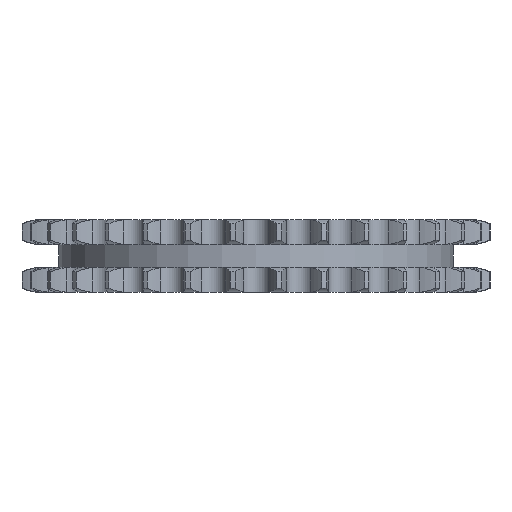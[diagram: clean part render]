
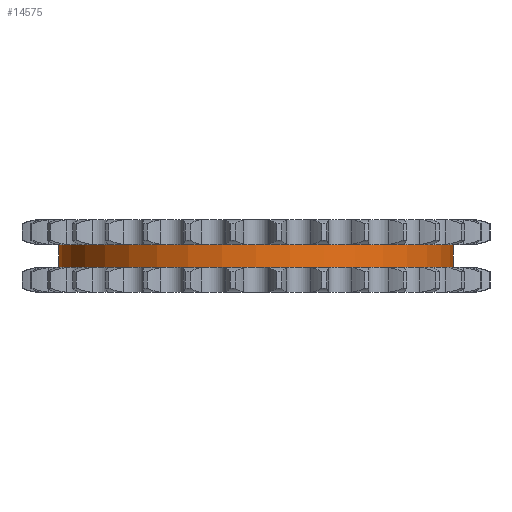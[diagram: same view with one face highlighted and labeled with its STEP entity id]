
A CAD part, left-side view. The second image highlights one B-rep face of the part: STEP entity #14575.
In plain terms, the highlighted cylindrical face has radius 56.785 mm (diameter 113.569 mm), a partial arc.
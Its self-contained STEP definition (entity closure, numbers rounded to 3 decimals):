
#3092=DIRECTION('',(0.,0.,-1.));
#3093=VECTOR('',#3092,6.6);
#3094=CARTESIAN_POINT('',(0.,56.785,3.3));
#3095=LINE('',#3094,#3093);
#3099=CARTESIAN_POINT('',(0.,0.,3.3));
#3100=DIRECTION('',(0.,0.,1.));
#3101=DIRECTION('',(0.,1.,0.));
#3102=AXIS2_PLACEMENT_3D('',#3099,#3100,#3101);
#3107=DIRECTION('',(0.,0.,-1.));
#3108=VECTOR('',#3107,6.6);
#3109=CARTESIAN_POINT('',(0.,-56.785,3.3));
#3110=LINE('',#3109,#3108);
#3114=CARTESIAN_POINT('',(0.,0.,-3.3));
#3115=DIRECTION('',(0.,0.,1.));
#3116=DIRECTION('',(0.,1.,0.));
#3117=AXIS2_PLACEMENT_3D('',#3114,#3115,#3116);
#11574=CARTESIAN_POINT('',(0.,56.785,3.3));
#11575=CARTESIAN_POINT('',(0.,56.785,-3.3));
#11576=VERTEX_POINT('',#11574);
#11577=VERTEX_POINT('',#11575);
#11578=CARTESIAN_POINT('',(0.,-56.785,3.3));
#11579=CARTESIAN_POINT('',(0.,-56.785,-3.3));
#11580=VERTEX_POINT('',#11578);
#11581=VERTEX_POINT('',#11579);
#14563=CARTESIAN_POINT('',(0.,0.,3.63));
#14564=DIRECTION('',(0.,0.,-1.));
#14565=DIRECTION('',(0.,-1.,0.));
#14566=AXIS2_PLACEMENT_3D('',#14563,#14564,#14565);
#14567=CYLINDRICAL_SURFACE('',#14566,56.785);
#14568=ORIENTED_EDGE('',*,*,#14553,.F.);
#14569=ORIENTED_EDGE('',*,*,#14543,.T.);
#14570=ORIENTED_EDGE('',*,*,#14557,.T.);
#14572=ORIENTED_EDGE('',*,*,#14571,.F.);
#14573=EDGE_LOOP('',(#14568,#14569,#14570,#14572));
#14574=FACE_OUTER_BOUND('',#14573,.F.);
#14575=ADVANCED_FACE('',(#14574),#14567,.T.);
#3103=CIRCLE('',#3102,56.785);
#3118=CIRCLE('',#3117,56.785);
#14543=EDGE_CURVE('',#11576,#11580,#3103,.T.);
#14553=EDGE_CURVE('',#11576,#11577,#3095,.T.);
#14557=EDGE_CURVE('',#11580,#11581,#3110,.T.);
#14571=EDGE_CURVE('',#11577,#11581,#3118,.T.);
